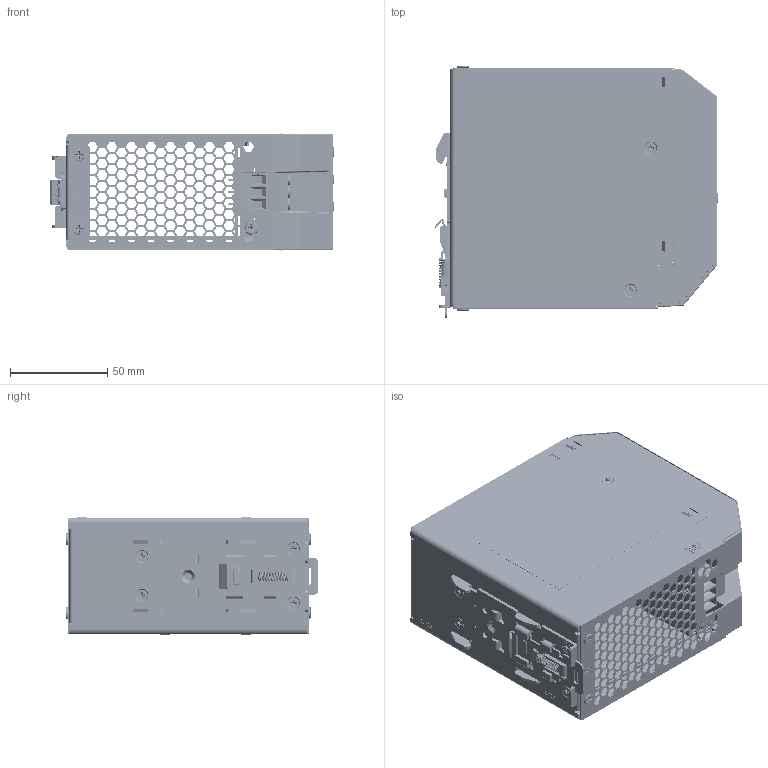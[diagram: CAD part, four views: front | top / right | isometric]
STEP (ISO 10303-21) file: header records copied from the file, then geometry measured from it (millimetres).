
FILE_DESCRIPTION((''),'2;1');
FILE_NAME('DRV-24V120W1PNH_PD00_ASM','2018-04-26T',('Pattrapol.seng'),(''),'PRO/ENGINEER BY PARAMETRIC TECHNOLOGY CORPORATION, 2010180','PRO/ENGINEER BY PARAMETRIC TECHNOLOGY CORPORATION, 2010180','');
FILE_SCHEMA(('CONFIG_CONTROL_DESIGN','SHAPE_APPEARANCE_LAYERS_GROUPS'));
Products named in the file (52): 2958073201_MAIN-BOARD; 3461420800; EE_LED_GREEN; EE_LED_BLUE; EE_VR701; 3352085700; 307301387W_A1-1; 307301387W_A1-2; 307301387W_A1-3; 307301387W_A1_ASM; 307301387W_ASM; 29698084XX_ADC-084; ASSY_ADC-084_ASM; 3470459800; 2969808200_ADC-082; 307662657W_T1; 307662657W_T2; 307662657W_T3_AF0; 307662657W_TERM-BLOCK_ASM; ASSY_ADC-082_ASM; 2969808300_ADC-083; ASSY_ADC-083_ASM; ASSY_MAINBOARD_ASM; 330335740000; ASSY_CHASSIS_ASM; 3100000600; 3103300600; 330335730000; 330335730000_A1; 330335730000_ASM; ASSY_COVER_ASM; 3105039100; 346654410101; 346008810000; 346202620000; ASSY_BASE-LATCH-SPRING_ASM; 326820910000; 2969808600_ADC-086; EE_ITAK-DISPLAY_5051010200; 307336817W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
Assembly tree (73 placements, depth 6):
  DRV-24V120W1PNH_PD00_ASM
    ASSY_MAINBOARD_ASM
      2958073201_MAIN-BOARD
      3461420800
      EE_LED_GREEN
      EE_LED_BLUE
      EE_VR701
      3352085700
      ASSY_ADC-084_ASM
        307301387W_ASM
          307301387W_A1_ASM  x3
            307301387W_A1-1
            307301387W_A1-2
            307301387W_A1-3
        29698084XX_ADC-084
      3470459800
      ASSY_ADC-082_ASM
        2969808200_ADC-082
        307662657W_TERM-BLOCK_ASM
          307662657W_T1
          307662657W_T2  x2
          307662657W_T3_AF0
      ASSY_ADC-083_ASM
        2969808300_ADC-083
    ASSY_CHASSIS_ASM
      330335740000
    3100000600  x8
    3103300600
    ASSY_COVER_ASM
      330335730000_ASM
        330335730000
        330335730000_A1  x4
    3105039100  x4
    ASSY_BASE-LATCH-SPRING_ASM
      346654410101
      346008810000
      346202620000
    326820910000
    ASSY_086_ASM
      2969808600_ADC-086
      EE_ITAK-DISPLAY_5051010200
      307336817W_ASM
        307336817W
      307605366G
      3071203334
      3473662400  x2
    330237840202_ASM
      330237840202
      330237840202_A1
      330237840202_A2
    3105309900  x4
    FRONT_LABEL_120W
Bounding box: 146 x 130 x 60.4 mm (x, y, z)
Volume: 159234.3 mm3; surface area: 239974.1 mm2
Topology: 67 solids, 67 shells, 9825 faces, 26578 edges, 17166 vertices
Faces by surface type: plane 6666, cylinder 1365, extrusion 1052, cone 311, bspline 263, torus 152, sphere 16
Entity records: 377931 total; most frequent: CARTESIAN_POINT 69568, ORIENTED_EDGE 41188, DIRECTION 35187, PRESENTATION_STYLE_ASSIGNMENT 22058, EDGE_CURVE 20594, VECTOR 16861, STYLED_ITEM 16500, CURVE_STYLE 16244
